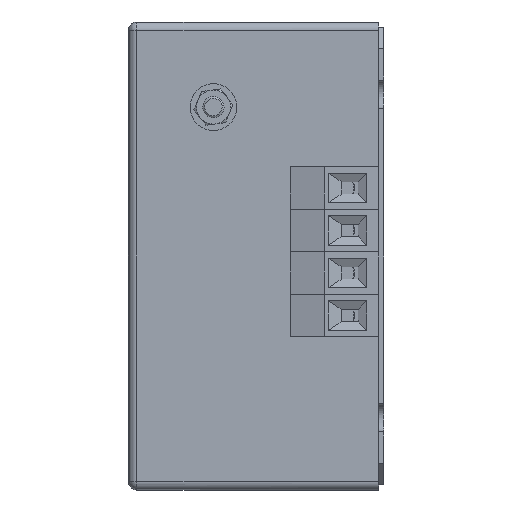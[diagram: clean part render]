
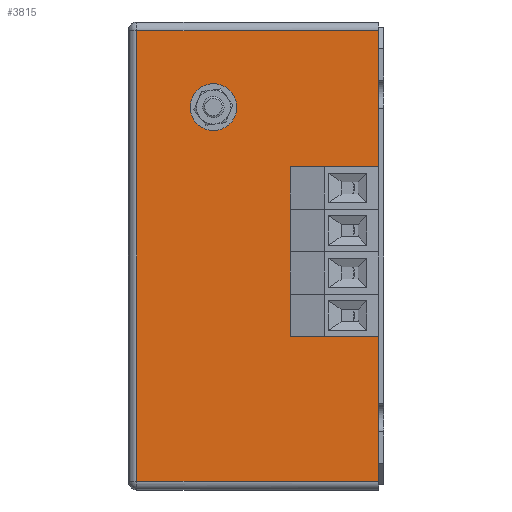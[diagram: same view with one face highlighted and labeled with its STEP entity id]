
A CAD part, left-side view. The second image highlights one B-rep face of the part: STEP entity #3815.
In plain terms, the highlighted planar face has unit normal (-1, 0, 0).
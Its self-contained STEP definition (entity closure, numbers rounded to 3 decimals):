
#14 = DIRECTION ( 'NONE',  ( 0., 0., -1. ) ) ;
#46 = DIRECTION ( 'NONE',  ( 1., 0., 0. ) ) ;
#53 = AXIS2_PLACEMENT_3D ( 'NONE', #2128, #79, #3347 ) ;
#79 = DIRECTION ( 'NONE',  ( 1., 0., 0. ) ) ;
#101 = VERTEX_POINT ( 'NONE', #8389 ) ;
#133 = CARTESIAN_POINT ( 'NONE',  ( 15., 60., 106.8 ) ) ;
#152 = CARTESIAN_POINT ( 'NONE',  ( 15., 58., -1.2 ) ) ;
#164 = DIRECTION ( 'NONE',  ( 0., 1., 0. ) ) ;
#171 = CARTESIAN_POINT ( 'NONE',  ( 15., 1.2, -1.2 ) ) ;
#176 = EDGE_CURVE ( 'NONE', #3252, #4977, #7923, .T. ) ;
#206 = EDGE_LOOP ( 'NONE', ( #6490, #1759 ) ) ;
#240 = VECTOR ( 'NONE', #3055, 1000. ) ;
#270 = CARTESIAN_POINT ( 'NONE',  ( 15., 40., 88.8 ) ) ;
#365 = EDGE_CURVE ( 'NONE', #7670, #5474, #6390, .T. ) ;
#366 = EDGE_CURVE ( 'NONE', #3626, #1566, #1838, .T. ) ;
#669 = CARTESIAN_POINT ( 'NONE',  ( 15., 40., 88.8 ) ) ;
#896 = DIRECTION ( 'NONE',  ( 1., 0., 0. ) ) ;
#938 = ORIENTED_EDGE ( 'NONE', *, *, #2122, .T. ) ;
#945 = EDGE_CURVE ( 'NONE', #7501, #7348, #3582, .T. ) ;
#951 = DIRECTION ( 'NONE',  ( 0., 0., -1. ) ) ;
#1189 = EDGE_CURVE ( 'NONE', #2006, #8270, #4506, .T. ) ;
#1238 = CARTESIAN_POINT ( 'NONE',  ( 15., 11., 39.8 ) ) ;
#1239 = FACE_BOUND ( 'NONE', #206, .T. ) ;
#1279 = CARTESIAN_POINT ( 'NONE',  ( 15., 60., -1.2 ) ) ;
#1391 = CARTESIAN_POINT ( 'NONE',  ( 15., 11., 43.9 ) ) ;
#1408 = EDGE_LOOP ( 'NONE', ( #4557, #3876 ) ) ;
#1437 = AXIS2_PLACEMENT_3D ( 'NONE', #4220, #2934, #951 ) ;
#1537 = DIRECTION ( 'NONE',  ( 0., 0., -1. ) ) ;
#1540 = DIRECTION ( 'NONE',  ( 1., 0., 0. ) ) ;
#1546 = FACE_BOUND ( 'NONE', #7762, .T. ) ;
#1550 = EDGE_CURVE ( 'NONE', #4977, #3252, #5224, .T. ) ;
#1566 = VERTEX_POINT ( 'NONE', #3865 ) ;
#1577 = ORIENTED_EDGE ( 'NONE', *, *, #6434, .T. ) ;
#1608 = CARTESIAN_POINT ( 'NONE',  ( 15., 60., 0.8 ) ) ;
#1759 = ORIENTED_EDGE ( 'NONE', *, *, #1550, .T. ) ;
#1838 = CIRCLE ( 'NONE', #5317, 4.1 ) ;
#1873 = EDGE_CURVE ( 'NONE', #7348, #3806, #3934, .T. ) ;
#1899 = CARTESIAN_POINT ( 'NONE',  ( 15., 1.2, 106.8 ) ) ;
#2006 = VERTEX_POINT ( 'NONE', #1391 ) ;
#2012 = ORIENTED_EDGE ( 'NONE', *, *, #1873, .T. ) ;
#2045 = AXIS2_PLACEMENT_3D ( 'NONE', #6299, #896, #7498 ) ;
#2061 = CIRCLE ( 'NONE', #1437, 4.1 ) ;
#2122 = EDGE_CURVE ( 'NONE', #1566, #3626, #2998, .T. ) ;
#2128 = CARTESIAN_POINT ( 'NONE',  ( 15., 11., 59.8 ) ) ;
#2179 = CARTESIAN_POINT ( 'NONE',  ( 15., 11., 69.8 ) ) ;
#2190 = VECTOR ( 'NONE', #164, 1000. ) ;
#2338 = AXIS2_PLACEMENT_3D ( 'NONE', #5499, #1540, #5586 ) ;
#2400 = LINE ( 'NONE', #133, #2190 ) ;
#2608 = ORIENTED_EDGE ( 'NONE', *, *, #945, .T. ) ;
#2810 = EDGE_CURVE ( 'NONE', #101, #5507, #7311, .T. ) ;
#2829 = CARTESIAN_POINT ( 'NONE',  ( 15., 11., 53.9 ) ) ;
#2841 = DIRECTION ( 'NONE',  ( 1., 0., 0. ) ) ;
#2932 = DIRECTION ( 'NONE',  ( 0., 0., -1. ) ) ;
#2934 = DIRECTION ( 'NONE',  ( 1., 0., 0. ) ) ;
#2998 = CIRCLE ( 'NONE', #6143, 4.1 ) ;
#3006 = DIRECTION ( 'NONE',  ( 0., 0., -1. ) ) ;
#3055 = DIRECTION ( 'NONE',  ( 0., 0., 1. ) ) ;
#3090 = FACE_OUTER_BOUND ( 'NONE', #6519, .T. ) ;
#3160 = DIRECTION ( 'NONE',  ( 1., 0., 0. ) ) ;
#3171 = LINE ( 'NONE', #152, #6896 ) ;
#3173 = CARTESIAN_POINT ( 'NONE',  ( 15., 1.2, 0.8 ) ) ;
#3252 = VERTEX_POINT ( 'NONE', #5283 ) ;
#3347 = DIRECTION ( 'NONE',  ( 0., 0., -1. ) ) ;
#3544 = DIRECTION ( 'NONE',  ( 0., -1., 0. ) ) ;
#3547 = AXIS2_PLACEMENT_3D ( 'NONE', #270, #8014, #5400 ) ;
#3576 = DIRECTION ( 'NONE',  ( 1., 0., 0. ) ) ;
#3582 = LINE ( 'NONE', #1608, #6481 ) ;
#3626 = VERTEX_POINT ( 'NONE', #5743 ) ;
#3806 = VERTEX_POINT ( 'NONE', #1899 ) ;
#3815 = ADVANCED_FACE ( 'NONE', ( #1546, #5150, #4942, #1239, #8339, #3090 ), #6488, .F. ) ;
#3853 = CARTESIAN_POINT ( 'NONE',  ( 15., 11., 45.7 ) ) ;
#3864 = ORIENTED_EDGE ( 'NONE', *, *, #5659, .T. ) ;
#3865 = CARTESIAN_POINT ( 'NONE',  ( 15., 11., 65.7 ) ) ;
#3876 = ORIENTED_EDGE ( 'NONE', *, *, #1189, .T. ) ;
#3934 = LINE ( 'NONE', #171, #240 ) ;
#3941 = CARTESIAN_POINT ( 'NONE',  ( 15., 11., 35.7 ) ) ;
#4071 = VERTEX_POINT ( 'NONE', #5472 ) ;
#4116 = CIRCLE ( 'NONE', #8327, 4.1 ) ;
#4220 = CARTESIAN_POINT ( 'NONE',  ( 15., 11., 49.8 ) ) ;
#4391 = AXIS2_PLACEMENT_3D ( 'NONE', #669, #3160, #7221 ) ;
#4489 = CIRCLE ( 'NONE', #53, 4.1 ) ;
#4506 = CIRCLE ( 'NONE', #6873, 4.1 ) ;
#4529 = EDGE_CURVE ( 'NONE', #4071, #7501, #3171, .T. ) ;
#4557 = ORIENTED_EDGE ( 'NONE', *, *, #8286, .T. ) ;
#4560 = EDGE_LOOP ( 'NONE', ( #6986, #3864 ) ) ;
#4806 = CARTESIAN_POINT ( 'NONE',  ( 15., 11., 39.8 ) ) ;
#4942 = FACE_BOUND ( 'NONE', #4560, .T. ) ;
#4970 = CARTESIAN_POINT ( 'NONE',  ( 15., 11., 69.8 ) ) ;
#4977 = VERTEX_POINT ( 'NONE', #8505 ) ;
#5150 = FACE_BOUND ( 'NONE', #1408, .T. ) ;
#5224 = CIRCLE ( 'NONE', #4391, 2.5 ) ;
#5283 = CARTESIAN_POINT ( 'NONE',  ( 15., 40., 86.3 ) ) ;
#5317 = AXIS2_PLACEMENT_3D ( 'NONE', #4970, #3576, #3006 ) ;
#5398 = DIRECTION ( 'NONE',  ( 1., 0., 0. ) ) ;
#5400 = DIRECTION ( 'NONE',  ( 0., 0., -1. ) ) ;
#5472 = CARTESIAN_POINT ( 'NONE',  ( 15., 58., 106.8 ) ) ;
#5474 = VERTEX_POINT ( 'NONE', #3853 ) ;
#5499 = CARTESIAN_POINT ( 'NONE',  ( 15., 11., 59.8 ) ) ;
#5507 = VERTEX_POINT ( 'NONE', #6619 ) ;
#5586 = DIRECTION ( 'NONE',  ( 0., 0., -1. ) ) ;
#5659 = EDGE_CURVE ( 'NONE', #5507, #101, #4489, .T. ) ;
#5743 = CARTESIAN_POINT ( 'NONE',  ( 15., 11., 73.9 ) ) ;
#5836 = DIRECTION ( 'NONE',  ( 1., 0., 0. ) ) ;
#6006 = ORIENTED_EDGE ( 'NONE', *, *, #365, .T. ) ;
#6123 = AXIS2_PLACEMENT_3D ( 'NONE', #1279, #46, #14 ) ;
#6143 = AXIS2_PLACEMENT_3D ( 'NONE', #2179, #2841, #2932 ) ;
#6299 = CARTESIAN_POINT ( 'NONE',  ( 15., 11., 49.8 ) ) ;
#6390 = CIRCLE ( 'NONE', #2045, 4.1 ) ;
#6434 = EDGE_CURVE ( 'NONE', #3806, #4071, #2400, .T. ) ;
#6481 = VECTOR ( 'NONE', #3544, 1000. ) ;
#6488 = PLANE ( 'NONE',  #6123 ) ;
#6490 = ORIENTED_EDGE ( 'NONE', *, *, #176, .T. ) ;
#6519 = EDGE_LOOP ( 'NONE', ( #8148, #2608, #2012, #1577 ) ) ;
#6619 = CARTESIAN_POINT ( 'NONE',  ( 15., 11., 63.9 ) ) ;
#6735 = DIRECTION ( 'NONE',  ( 0., 0., -1. ) ) ;
#6873 = AXIS2_PLACEMENT_3D ( 'NONE', #4806, #5398, #1537 ) ;
#6896 = VECTOR ( 'NONE', #6735, 1000. ) ;
#6986 = ORIENTED_EDGE ( 'NONE', *, *, #2810, .T. ) ;
#7095 = ORIENTED_EDGE ( 'NONE', *, *, #7995, .T. ) ;
#7164 = DIRECTION ( 'NONE',  ( 0., 0., -1. ) ) ;
#7182 = EDGE_LOOP ( 'NONE', ( #7095, #6006 ) ) ;
#7221 = DIRECTION ( 'NONE',  ( 0., 0., -1. ) ) ;
#7311 = CIRCLE ( 'NONE', #2338, 4.1 ) ;
#7327 = CARTESIAN_POINT ( 'NONE',  ( 15., 58., 0.8 ) ) ;
#7348 = VERTEX_POINT ( 'NONE', #3173 ) ;
#7498 = DIRECTION ( 'NONE',  ( 0., 0., -1. ) ) ;
#7501 = VERTEX_POINT ( 'NONE', #7327 ) ;
#7670 = VERTEX_POINT ( 'NONE', #2829 ) ;
#7762 = EDGE_LOOP ( 'NONE', ( #938, #7909 ) ) ;
#7909 = ORIENTED_EDGE ( 'NONE', *, *, #366, .T. ) ;
#7923 = CIRCLE ( 'NONE', #3547, 2.5 ) ;
#7995 = EDGE_CURVE ( 'NONE', #5474, #7670, #2061, .T. ) ;
#8014 = DIRECTION ( 'NONE',  ( 1., 0., 0. ) ) ;
#8148 = ORIENTED_EDGE ( 'NONE', *, *, #4529, .T. ) ;
#8270 = VERTEX_POINT ( 'NONE', #3941 ) ;
#8286 = EDGE_CURVE ( 'NONE', #8270, #2006, #4116, .T. ) ;
#8327 = AXIS2_PLACEMENT_3D ( 'NONE', #1238, #5836, #7164 ) ;
#8339 = FACE_BOUND ( 'NONE', #7182, .T. ) ;
#8389 = CARTESIAN_POINT ( 'NONE',  ( 15., 11., 55.7 ) ) ;
#8505 = CARTESIAN_POINT ( 'NONE',  ( 15., 40., 91.3 ) ) ;
